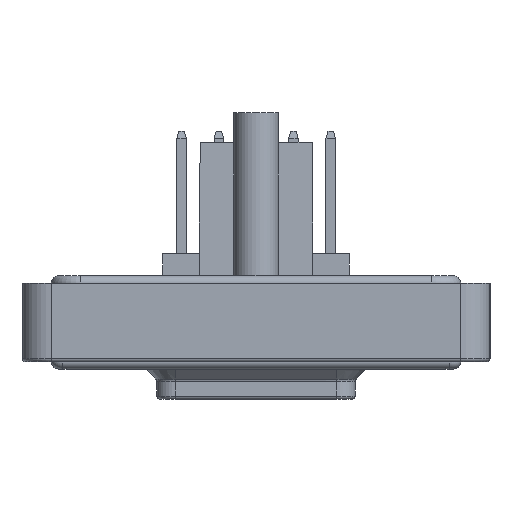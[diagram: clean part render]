
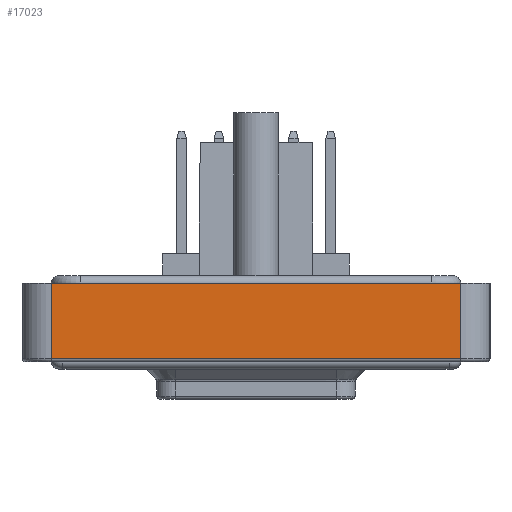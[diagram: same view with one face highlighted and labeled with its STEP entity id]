
A CAD part, front view. The second image highlights one B-rep face of the part: STEP entity #17023.
In plain terms, the highlighted planar face has unit normal (0, -1, 0).
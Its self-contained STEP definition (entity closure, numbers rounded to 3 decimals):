
#329 = VECTOR ( 'NONE', #6109, 1000. ) ;
#1402 = VECTOR ( 'NONE', #13878, 1000. ) ;
#1504 = EDGE_CURVE ( 'NONE', #16034, #5115, #10815, .T. ) ;
#2503 = DIRECTION ( 'NONE',  ( -1., 0., 0. ) ) ;
#2600 = EDGE_CURVE ( 'NONE', #10688, #15776, #4380, .T. ) ;
#2839 = CARTESIAN_POINT ( 'NONE',  ( 13.435, -47.637, -0.455 ) ) ;
#3321 = LINE ( 'NONE', #16586, #1402 ) ;
#3877 = DIRECTION ( 'NONE',  ( 0., -1., 0. ) ) ;
#4252 = FACE_OUTER_BOUND ( 'NONE', #6707, .T. ) ;
#4269 = EDGE_CURVE ( 'NONE', #5115, #15776, #3321, .T. ) ;
#4380 = LINE ( 'NONE', #14322, #329 ) ;
#5021 = CARTESIAN_POINT ( 'NONE',  ( -14.435, -47.637, -0.455 ) ) ;
#5115 = VERTEX_POINT ( 'NONE', #5533 ) ;
#5533 = CARTESIAN_POINT ( 'NONE',  ( 13.435, -47.637, 4.695 ) ) ;
#6109 = DIRECTION ( 'NONE',  ( 1., 0., 0. ) ) ;
#6707 = EDGE_LOOP ( 'NONE', ( #14155, #16210, #16846, #9592 ) ) ;
#7301 = CARTESIAN_POINT ( 'NONE',  ( -14.435, -47.637, 4.695 ) ) ;
#9592 = ORIENTED_EDGE ( 'NONE', *, *, #1504, .F. ) ;
#10471 = VECTOR ( 'NONE', #13121, 1000. ) ;
#10688 = VERTEX_POINT ( 'NONE', #5021 ) ;
#10815 = LINE ( 'NONE', #7301, #15085 ) ;
#12014 = CARTESIAN_POINT ( 'NONE',  ( 13.435, -47.637, 1.595 ) ) ;
#12993 = CARTESIAN_POINT ( 'NONE',  ( -14.435, -47.637, 4.695 ) ) ;
#13121 = DIRECTION ( 'NONE',  ( 0., 0., -1. ) ) ;
#13387 = PLANE ( 'NONE',  #14815 ) ;
#13878 = DIRECTION ( 'NONE',  ( 0., 0., -1. ) ) ;
#14155 = ORIENTED_EDGE ( 'NONE', *, *, #17620, .T. ) ;
#14322 = CARTESIAN_POINT ( 'NONE',  ( 13.435, -47.637, -0.455 ) ) ;
#14815 = AXIS2_PLACEMENT_3D ( 'NONE', #12014, #3877, #2503 ) ;
#14969 = LINE ( 'NONE', #15791, #10471 ) ;
#15085 = VECTOR ( 'NONE', #15751, 1000. ) ;
#15751 = DIRECTION ( 'NONE',  ( 1., 0., 0. ) ) ;
#15776 = VERTEX_POINT ( 'NONE', #2839 ) ;
#15791 = CARTESIAN_POINT ( 'NONE',  ( -14.435, -47.637, 1.595 ) ) ;
#16034 = VERTEX_POINT ( 'NONE', #12993 ) ;
#16210 = ORIENTED_EDGE ( 'NONE', *, *, #2600, .T. ) ;
#16586 = CARTESIAN_POINT ( 'NONE',  ( 13.435, -47.637, 1.595 ) ) ;
#16846 = ORIENTED_EDGE ( 'NONE', *, *, #4269, .F. ) ;
#17023 = ADVANCED_FACE ( 'NONE', ( #4252 ), #13387, .T. ) ;
#17620 = EDGE_CURVE ( 'NONE', #16034, #10688, #14969, .T. ) ;
